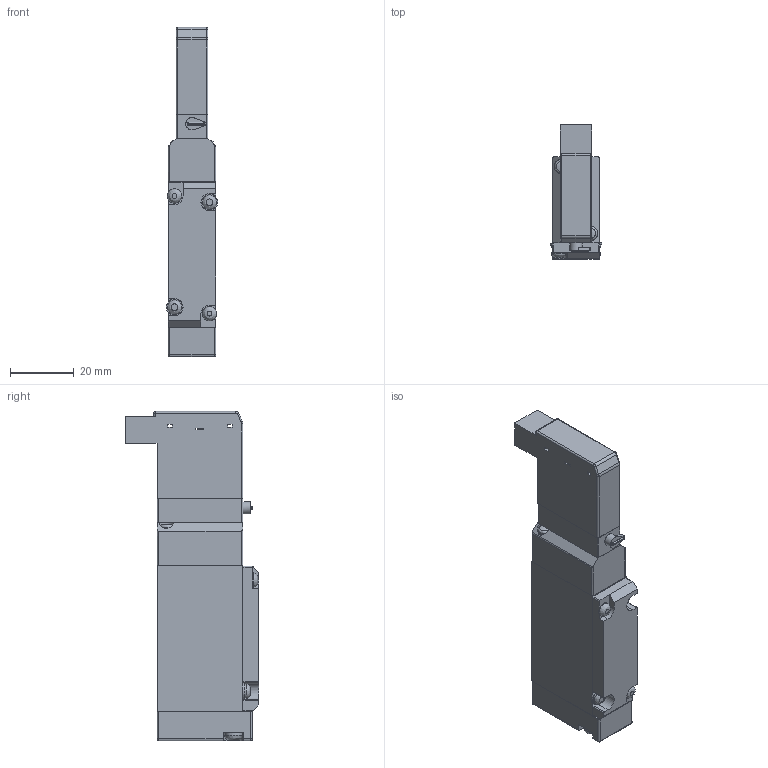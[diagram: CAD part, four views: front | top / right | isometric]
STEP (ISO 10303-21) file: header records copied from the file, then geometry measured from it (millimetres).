
FILE_DESCRIPTION( (''), '2;1');
FILE_NAME ('CVICAD02.3360.F15T0-R-A1_21406.stp','2021-07-12T19:12:21',(''),(''),'spGate 12.6.6','','');
FILE_SCHEMA (('AUTOMOTIVE_DESIGN'));
Length unit declared in the file: millimetre
Bounding box: 16.2 x 42 x 103.5 mm (x, y, z)
Volume: 40589.6 mm3; surface area: 15479.9 mm2
Topology: 6 solids, 7 shells, 232 faces, 602 edges, 388 vertices
Faces by surface type: plane 123, cylinder 86, bspline 14, sphere 9
Full cylindrical faces by diameter (mm): 2.8 x2, 3.3 x1, 3.9 x2, 4.5 x6, 4.7 x2, 5.2 x2, 5.6 x2
Entity records: 12382 total; most frequent: CARTESIAN_POINT 1975, ORIENTED_EDGE 1182, DIRECTION 1143, COLOUR_RGB 829, PRESENTATION_STYLE_ASSIGNMENT 829, STYLED_ITEM 829, EDGE_CURVE 591, DRAUGHTING_PRE_DEFINED_CURVE_FONT 591
